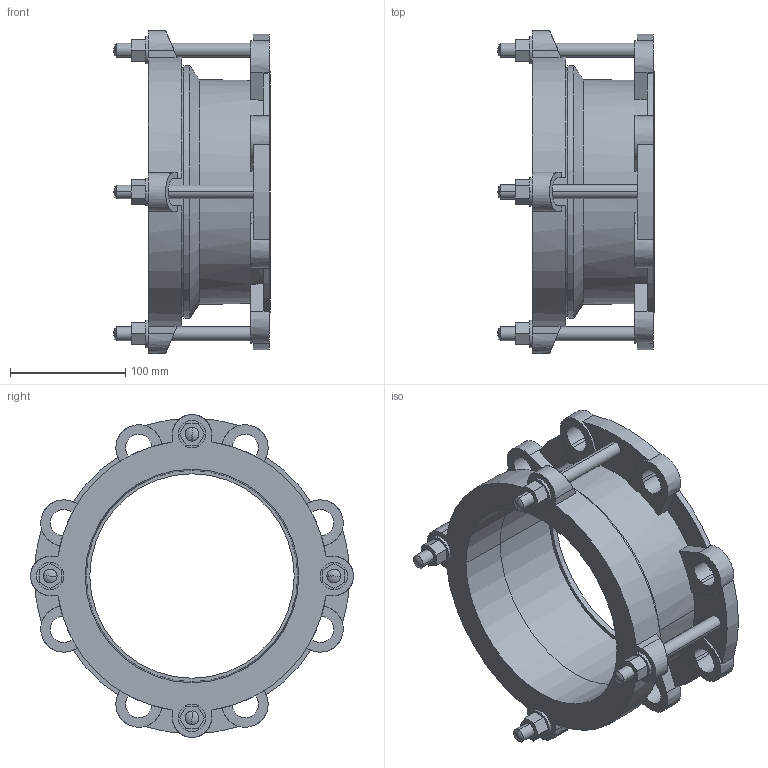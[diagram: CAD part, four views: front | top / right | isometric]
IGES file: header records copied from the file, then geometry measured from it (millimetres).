
Start section:  PTC IGES file: maxidaptor_158-184.igs
Global section: file name: maxidaptor_158-184.igs; native system: Creo Parametric by PTC Inc.; preprocessor: 2016130; author: MReader; organization: Unknown; date: 20181005.112357; units: millimetre
Bounding box: 136 x 280.5 x 280.5 mm (x, y, z)
Surface area: 259220.2 mm2 (no closed solid volume)
Topology: 0 solids, 0 shells, 213 faces, 1148 edges, 1140 vertices
Faces by surface type: bspline 121, revolution 92
